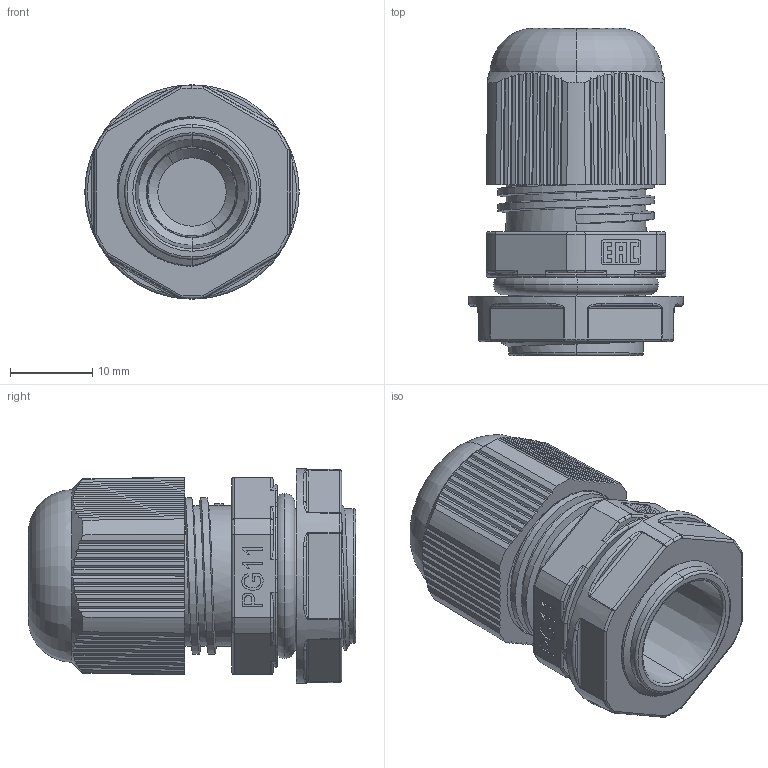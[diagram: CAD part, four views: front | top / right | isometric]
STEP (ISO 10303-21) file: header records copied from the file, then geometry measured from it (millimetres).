
FILE_DESCRIPTION (( 'STEP AP203' ), '1' );
FILE_NAME ('plc-pg-11-00.00.000ÑÁ Ñàëüíèê PG11 #cable gland PG11#.STEP', '2024-02-27T07:23:26', ( '' ), ( '' ), 'SwSTEP 2.0', 'SolidWorks 2021', '' );
FILE_SCHEMA (( 'CONFIG_CONTROL_DESIGN' ));
Length unit declared in the file: millimetre
Products named in the file (6): plc-pg-11-00.00.002 Ãàéêà öàíãîâàÿ (PG11) #collet nut (PG11)#; plc-pg-11-00.00.003 Ãàéêà ïðèæèìíàÿ (PG11-Ì18) #clamping nut (PG11-M18)#; plc-pg-11-00.00.005 ﾌ瑙趺 (PG11) #sealing ring (PG11)#; plc-pg-11-00.00.001 昢膼瘔 (PG11) #base (PG11)#; plc-pg-11-00.00.004 Óïëîòíèòåëü (PG11) #sealant (PG11)#; plc-pg-11-00.00.000ÑÁ Ñàëüíèê PG11 #cable gland PG11#
Assembly tree (5 placements, depth 2):
  plc-pg-11-00.00.000ÑÁ Ñàëüíèê PG11 #cable gland PG11#
    plc-pg-11-00.00.001 昢膼瘔 (PG11) #base (PG11)#
    plc-pg-11-00.00.002 Ãàéêà öàíãîâàÿ (PG11) #collet nut (PG11)#
    plc-pg-11-00.00.003 Ãàéêà ïðèæèìíàÿ (PG11-Ì18) #clamping nut (PG11-M18)#
    plc-pg-11-00.00.004 Óïëîòíèòåëü (PG11) #sealant (PG11)#
    plc-pg-11-00.00.005 ﾌ瑙趺 (PG11) #sealing ring (PG11)#
Bounding box: 26 x 39.67 x 26 mm (x, y, z)
Volume: 8863.2 mm3; surface area: 11554.8 mm2
Topology: 5 solids, 8 shells, 802 faces, 2143 edges, 1357 vertices
Faces by surface type: plane 403, cylinder 118, cone 110, torus 85, bspline 74, sphere 12
Entity records: 32332 total; most frequent: CARTESIAN_POINT 13315, ORIENTED_EDGE 4262, DIRECTION 3308, EDGE_CURVE 2131, VERTEX_POINT 1357, AXIS2_PLACEMENT_3D 1193, LINE 922, VECTOR 922
